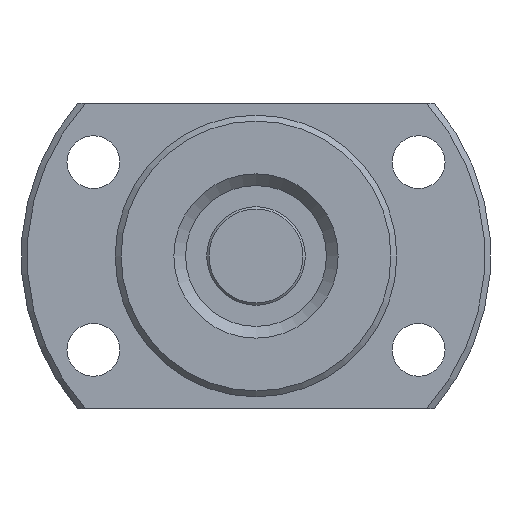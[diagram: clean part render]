
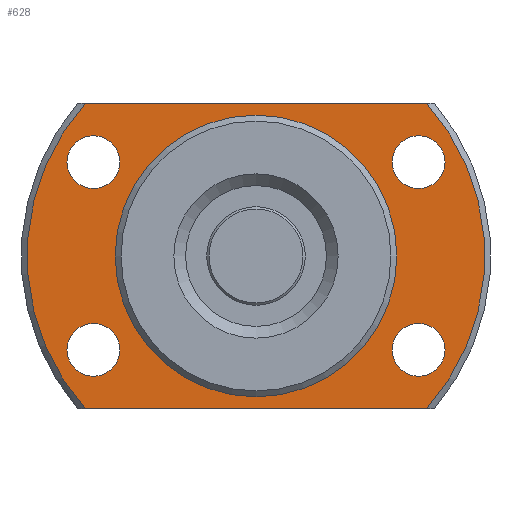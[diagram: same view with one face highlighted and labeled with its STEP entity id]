
A CAD part, left-side view. The second image highlights one B-rep face of the part: STEP entity #628.
In plain terms, the highlighted planar face has unit normal (-1, 0, 0) as drawn and (1, 0, 0) by its records, which use the part's own axes.
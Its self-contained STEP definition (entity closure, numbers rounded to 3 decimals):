
#93=CIRCLE('',#730,2.25);
#94=CIRCLE('',#731,2.25);
#95=CIRCLE('',#732,2.25);
#96=CIRCLE('',#733,2.25);
#97=CIRCLE('',#734,12.);
#98=CIRCLE('',#735,19.5);
#99=CIRCLE('',#736,19.5);
#183=ORIENTED_EDGE('',*,*,#295,.T.);
#184=ORIENTED_EDGE('',*,*,#296,.T.);
#185=ORIENTED_EDGE('',*,*,#297,.T.);
#186=ORIENTED_EDGE('',*,*,#298,.T.);
#187=ORIENTED_EDGE('',*,*,#299,.F.);
#188=ORIENTED_EDGE('',*,*,#300,.T.);
#189=ORIENTED_EDGE('',*,*,#301,.T.);
#190=ORIENTED_EDGE('',*,*,#302,.T.);
#191=ORIENTED_EDGE('',*,*,#303,.T.);
#295=EDGE_CURVE('',#361,#361,#93,.F.);
#296=EDGE_CURVE('',#362,#362,#94,.F.);
#297=EDGE_CURVE('',#363,#363,#95,.F.);
#298=EDGE_CURVE('',#364,#364,#96,.F.);
#299=EDGE_CURVE('',#365,#365,#97,.T.);
#300=EDGE_CURVE('',#366,#367,#98,.T.);
#301=EDGE_CURVE('',#367,#368,#396,.T.);
#302=EDGE_CURVE('',#368,#369,#99,.T.);
#303=EDGE_CURVE('',#369,#366,#397,.T.);
#361=VERTEX_POINT('',#1078);
#362=VERTEX_POINT('',#1080);
#363=VERTEX_POINT('',#1082);
#364=VERTEX_POINT('',#1084);
#365=VERTEX_POINT('',#1086);
#366=VERTEX_POINT('',#1088);
#367=VERTEX_POINT('',#1089);
#368=VERTEX_POINT('',#1091);
#369=VERTEX_POINT('',#1093);
#396=LINE('',#1090,#414);
#397=LINE('',#1094,#415);
#414=VECTOR('',#905,1000.);
#415=VECTOR('',#908,1000.);
#466=EDGE_LOOP('',(#183));
#467=EDGE_LOOP('',(#184));
#468=EDGE_LOOP('',(#185));
#469=EDGE_LOOP('',(#186));
#470=EDGE_LOOP('',(#187));
#471=EDGE_LOOP('',(#188,#189,#190,#191));
#548=FACE_BOUND('',#466,.T.);
#549=FACE_BOUND('',#467,.T.);
#550=FACE_BOUND('',#468,.T.);
#551=FACE_BOUND('',#469,.T.);
#552=FACE_BOUND('',#470,.T.);
#553=FACE_BOUND('',#471,.T.);
#598=PLANE('',#729);
#628=ADVANCED_FACE('',(#548,#549,#550,#551,#552,#553),#598,.T.);
#729=AXIS2_PLACEMENT_3D('',#1076,#891,#892);
#730=AXIS2_PLACEMENT_3D('',#1077,#893,#894);
#731=AXIS2_PLACEMENT_3D('',#1079,#895,#896);
#732=AXIS2_PLACEMENT_3D('',#1081,#897,#898);
#733=AXIS2_PLACEMENT_3D('',#1083,#899,#900);
#734=AXIS2_PLACEMENT_3D('',#1085,#901,#902);
#735=AXIS2_PLACEMENT_3D('',#1087,#903,#904);
#736=AXIS2_PLACEMENT_3D('',#1092,#906,#907);
#891=DIRECTION('',(1.,0.,0.));
#892=DIRECTION('',(0.,0.,-1.));
#893=DIRECTION('',(1.,0.,0.));
#894=DIRECTION('',(0.,0.,-1.));
#895=DIRECTION('',(1.,0.,0.));
#896=DIRECTION('',(0.,0.,-1.));
#897=DIRECTION('',(1.,0.,0.));
#898=DIRECTION('',(0.,0.,-1.));
#899=DIRECTION('',(1.,0.,0.));
#900=DIRECTION('',(0.,0.,-1.));
#901=DIRECTION('',(1.,0.,0.));
#902=DIRECTION('',(0.,0.,-1.));
#903=DIRECTION('',(1.,0.,0.));
#904=DIRECTION('',(0.,0.,-1.));
#905=DIRECTION('',(0.,-1.,0.));
#906=DIRECTION('',(1.,0.,0.));
#907=DIRECTION('',(0.,0.,-1.));
#908=DIRECTION('',(0.,1.,0.));
#1076=CARTESIAN_POINT('',(8.,12.,0.));
#1077=CARTESIAN_POINT('',(8.,13.856,8.));
#1078=CARTESIAN_POINT('',(8.,13.856,5.75));
#1079=CARTESIAN_POINT('',(8.,-13.856,-8.));
#1080=CARTESIAN_POINT('',(8.,-13.856,-10.25));
#1081=CARTESIAN_POINT('',(8.,-13.856,8.));
#1082=CARTESIAN_POINT('',(8.,-13.856,5.75));
#1083=CARTESIAN_POINT('',(8.,13.856,-8.));
#1084=CARTESIAN_POINT('',(8.,13.856,-10.25));
#1085=CARTESIAN_POINT('',(8.,0.,0.));
#1086=CARTESIAN_POINT('',(8.,0.,-12.));
#1087=CARTESIAN_POINT('',(8.,0.,0.));
#1088=CARTESIAN_POINT('',(8.,14.534,-13.));
#1089=CARTESIAN_POINT('',(8.,14.534,13.));
#1090=CARTESIAN_POINT('',(8.,12.,13.));
#1091=CARTESIAN_POINT('',(8.,-14.534,13.));
#1092=CARTESIAN_POINT('',(8.,0.,0.));
#1093=CARTESIAN_POINT('',(8.,-14.534,-13.));
#1094=CARTESIAN_POINT('',(8.,12.,-13.));
